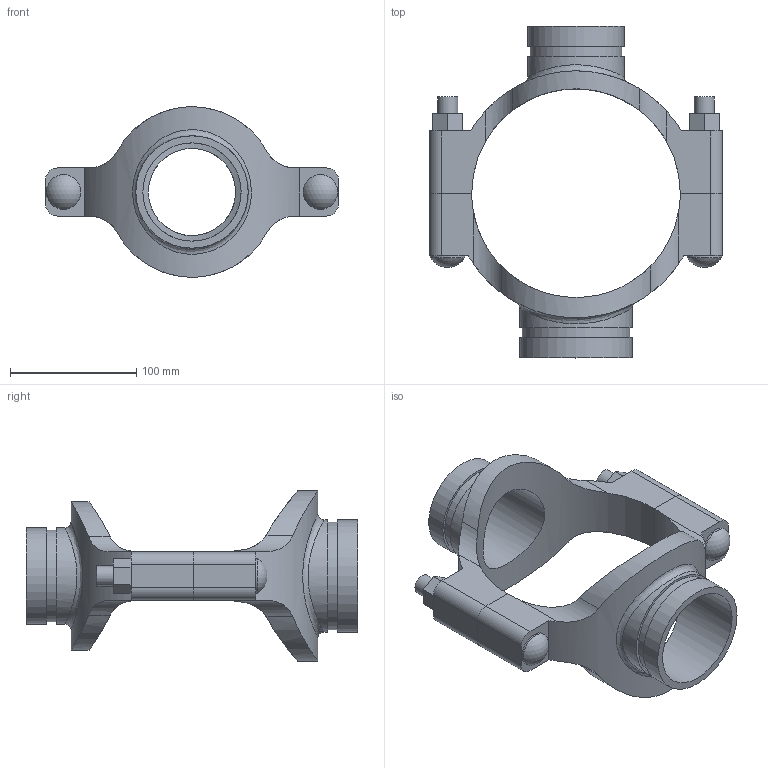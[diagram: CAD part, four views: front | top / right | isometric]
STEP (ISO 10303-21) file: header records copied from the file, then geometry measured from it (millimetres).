
FILE_DESCRIPTION(/* description */ ('VIC MECH-T BRANCH OUTLET CROSS STYLE 920N (GRVD)','CAx-IF Rec.Pracs.---Representation and Presentation of Product Manufacturing Information (PMI)---4.0---2014-10-13'),/* implementation_level */ '2;1');
FILE_NAME(/* name */ 'C:\Users\Vjadhav\AppData\Roaming\Autodesk\ApplicationPlugins\Back Up\Victaulic_IPS_Mechanical-Cross Outlet_Style 920N (OGS)\Victaulic_IPS_Mechanical-Cross Outlet_06.0 (165.1)x02.5 (76.1)x03.0 (150x65x80).stp',/* time_stamp */ '2020-08-06T19:45:43+05:00',/* author */ ('Vjadhav'),/* organization */ ('Victaulic'),/* preprocessor_version */ 'ST-DEVELOPER v17.2',/* originating_system */ 'Autodesk Inventor 2019',/* authorisation */ '');
FILE_SCHEMA (('AP242_MANAGED_MODEL_BASED_3D_ENGINEERING_MIM_LF { 1 0 10303 442 1 1 4 }'));
Length unit declared in the file: inch
Products named in the file (3): 920NG-06.0 (165.1)x02.5 (76.1)x03.0; 920G-06.0 (165.1)x02.5 (76.1); 920G-06.0 (165.1)x03.0
Assembly tree (2 placements, depth 2):
  920NG-06.0 (165.1)x02.5 (76.1)x03.0
    920G-06.0 (165.1)x02.5 (76.1)
    920G-06.0 (165.1)x03.0
Bounding box: 231.9 x 262.64 x 134.87 mm (x, y, z)
Volume: 697701.7 mm3; surface area: 168497.5 mm2
Topology: 2 solids, 2 shells, 104 faces, 262 edges, 178 vertices
Faces by surface type: plane 54, cylinder 46, sphere 2, bspline 2
Full cylindrical faces by diameter (mm): 15.875 x4, 27.381 x2, 68.986 x1, 72.263 x1, 76.2 x2, 77.787 x1, 84.938 x1, 88.9 x2
Entity records: 4278 total; most frequent: CARTESIAN_POINT 1505, DIRECTION 532, ORIENTED_EDGE 524, EDGE_CURVE 262, AXIS2_PLACEMENT_3D 193, VERTEX_POINT 178, LINE 146, VECTOR 146
